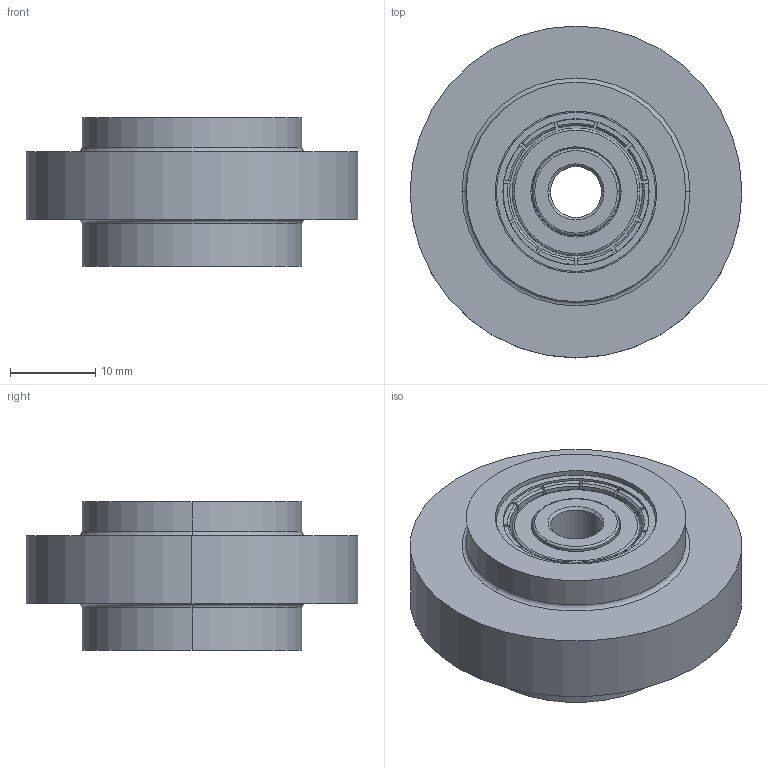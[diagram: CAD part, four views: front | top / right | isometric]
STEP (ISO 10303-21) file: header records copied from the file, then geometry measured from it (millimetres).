
FILE_DESCRIPTION (( 'STEP AP203' ), '1' );
FILE_NAME ('406010_Tragrolle 8 Ø39.step', '2022-06-03T06:54:01', ( '' ), ( '' ), 'SwSTEP 2.0', 'SolidWorks 2021', '' );
FILE_SCHEMA (( 'CONFIG_CONTROL_DESIGN' ));
Length unit declared in the file: millimetre
Products named in the file (1): 406010_Tragrolle 8 Ø39
Bounding box: 39 x 39 x 17.5 mm (x, y, z)
Volume: 13223.6 mm3; surface area: 8937.3 mm2
Topology: 1 solids, 1 shells, 202 faces, 472 edges, 308 vertices
Faces by surface type: plane 82, cylinder 76, cone 28, torus 16
Entity records: 5911 total; most frequent: DIRECTION 1092, CARTESIAN_POINT 983, ORIENTED_EDGE 944, EDGE_CURVE 472, AXIS2_PLACEMENT_3D 417, VERTEX_POINT 308, VECTOR 258, LINE 258
